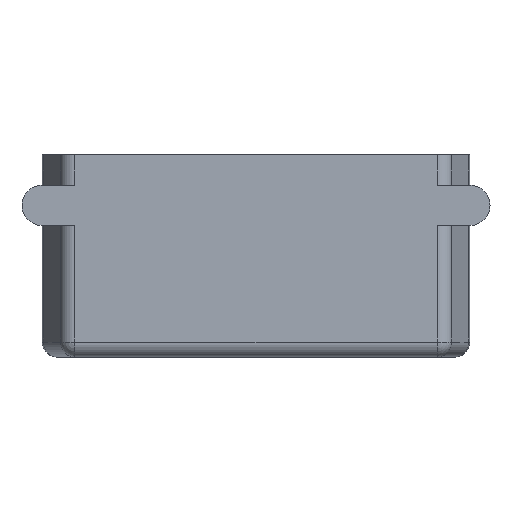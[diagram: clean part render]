
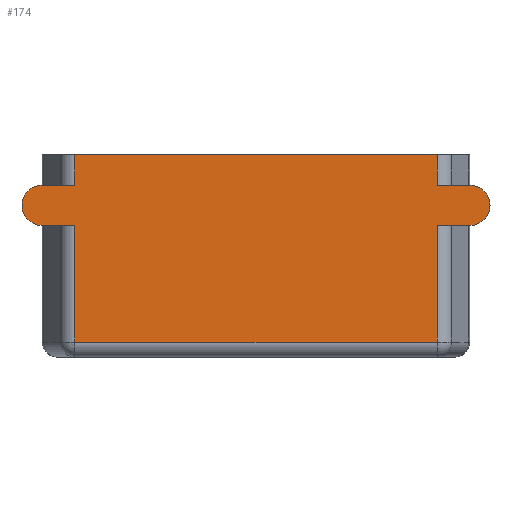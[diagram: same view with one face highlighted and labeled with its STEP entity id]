
A CAD part, front view. The second image highlights one B-rep face of the part: STEP entity #174.
In plain terms, the highlighted planar face has unit normal (0, -1, 0).
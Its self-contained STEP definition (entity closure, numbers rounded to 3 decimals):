
#2 = VECTOR ( 'NONE', #1752, 1000. ) ;
#5 = LINE ( 'NONE', #1722, #2 ) ;
#8 = LINE ( 'NONE', #1710, #518 ) ;
#22 = FACE_OUTER_BOUND ( 'NONE', #929, .T. ) ;
#117 = CARTESIAN_POINT ( 'NONE',  ( 35.782, -30.5, 40. ) ) ;
#118 = DIRECTION ( 'NONE',  ( 0., 0., -1. ) ) ;
#122 = DIRECTION ( 'NONE',  ( 0., 0., -1. ) ) ;
#127 = CARTESIAN_POINT ( 'NONE',  ( -35.782, -30.5, 40. ) ) ;
#174 = ADVANCED_FACE ( 'NONE', ( #22 ), #390, .F. ) ;
#237 = CARTESIAN_POINT ( 'NONE',  ( 42.25, -30.5, 26. ) ) ;
#243 = CARTESIAN_POINT ( 'NONE',  ( 42.25, -30.5, 34. ) ) ;
#287 = CARTESIAN_POINT ( 'NONE',  ( 35.782, -30.5, 40. ) ) ;
#387 = DIRECTION ( 'NONE',  ( -1., 0., 0. ) ) ;
#388 = DIRECTION ( 'NONE',  ( 0., 1., 0. ) ) ;
#390 = PLANE ( 'NONE',  #623 ) ;
#473 = LINE ( 'NONE', #117, #475 ) ;
#475 = VECTOR ( 'NONE', #118, 1000. ) ;
#478 = LINE ( 'NONE', #127, #480 ) ;
#480 = VECTOR ( 'NONE', #122, 1000. ) ;
#487 = VECTOR ( 'NONE', #1749, 1000. ) ;
#490 = LINE ( 'NONE', #1750, #487 ) ;
#514 = VECTOR ( 'NONE', #1736, 1000. ) ;
#515 = VECTOR ( 'NONE', #1680, 1000. ) ;
#516 = LINE ( 'NONE', #1685, #515 ) ;
#518 = VECTOR ( 'NONE', #1691, 1000. ) ;
#568 = AXIS2_PLACEMENT_3D ( 'NONE', #1744, #1743, #1741 ) ;
#570 = AXIS2_PLACEMENT_3D ( 'NONE', #1763, #1761, #1760 ) ;
#623 = AXIS2_PLACEMENT_3D ( 'NONE', #287, #388, #387 ) ;
#674 = EDGE_CURVE ( 'NONE', #1645, #1646, #5, .T. ) ;
#675 = EDGE_CURVE ( 'NONE', #1590, #1627, #8, .T. ) ;
#676 = EDGE_CURVE ( 'NONE', #1625, #1627, #516, .T. ) ;
#677 = EDGE_CURVE ( 'NONE', #1625, #1657, #1037, .T. ) ;
#678 = EDGE_CURVE ( 'NONE', #1657, #1665, #1034, .T. ) ;
#683 = EDGE_CURVE ( 'NONE', #1665, #1577, #490, .T. ) ;
#684 = EDGE_CURVE ( 'NONE', #1646, #1638, #1027, .T. ) ;
#685 = EDGE_CURVE ( 'NONE', #1638, #1626, #1449, .T. ) ;
#686 = EDGE_CURVE ( 'NONE', #1645, #1580, #1035, .T. ) ;
#688 = EDGE_CURVE ( 'NONE', #1626, #1589, #1358, .T. ) ;
#775 = EDGE_CURVE ( 'NONE', #1580, #1577, #473, .T. ) ;
#778 = EDGE_CURVE ( 'NONE', #1589, #1590, #478, .T. ) ;
#929 = EDGE_LOOP ( 'NONE', ( #1254, #1255, #1256, #1257, #1258, #1259, #1260, #1261, #1262, #1263, #1264, #1265 ) ) ;
#1027 = LINE ( 'NONE', #1748, #1048 ) ;
#1034 = CIRCLE ( 'NONE', #570, 4. ) ;
#1035 = LINE ( 'NONE', #1756, #1563 ) ;
#1036 = VECTOR ( 'NONE', #1673, 1000. ) ;
#1037 = LINE ( 'NONE', #1715, #1036 ) ;
#1048 = VECTOR ( 'NONE', #1747, 1000. ) ;
#1254 = ORIENTED_EDGE ( 'NONE', *, *, #778, .T. ) ;
#1255 = ORIENTED_EDGE ( 'NONE', *, *, #675, .T. ) ;
#1256 = ORIENTED_EDGE ( 'NONE', *, *, #676, .F. ) ;
#1257 = ORIENTED_EDGE ( 'NONE', *, *, #677, .T. ) ;
#1258 = ORIENTED_EDGE ( 'NONE', *, *, #678, .T. ) ;
#1259 = ORIENTED_EDGE ( 'NONE', *, *, #683, .T. ) ;
#1260 = ORIENTED_EDGE ( 'NONE', *, *, #775, .F. ) ;
#1261 = ORIENTED_EDGE ( 'NONE', *, *, #686, .F. ) ;
#1262 = ORIENTED_EDGE ( 'NONE', *, *, #674, .T. ) ;
#1263 = ORIENTED_EDGE ( 'NONE', *, *, #684, .T. ) ;
#1264 = ORIENTED_EDGE ( 'NONE', *, *, #685, .T. ) ;
#1265 = ORIENTED_EDGE ( 'NONE', *, *, #688, .T. ) ;
#1278 = CARTESIAN_POINT ( 'NONE',  ( 35.782, -30.5, 40. ) ) ;
#1288 = CARTESIAN_POINT ( 'NONE',  ( 35.782, -30.5, 34. ) ) ;
#1296 = CARTESIAN_POINT ( 'NONE',  ( -35.782, -30.5, 26. ) ) ;
#1297 = CARTESIAN_POINT ( 'NONE',  ( -35.782, -30.5, 3. ) ) ;
#1332 = CARTESIAN_POINT ( 'NONE',  ( 35.782, -30.5, 26. ) ) ;
#1333 = CARTESIAN_POINT ( 'NONE',  ( -42.25, -30.5, 26. ) ) ;
#1334 = CARTESIAN_POINT ( 'NONE',  ( 35.782, -30.5, 3. ) ) ;
#1345 = CARTESIAN_POINT ( 'NONE',  ( -42.25, -30.5, 34. ) ) ;
#1352 = CARTESIAN_POINT ( 'NONE',  ( -35.782, -30.5, 40. ) ) ;
#1353 = CARTESIAN_POINT ( 'NONE',  ( -35.782, -30.5, 34. ) ) ;
#1358 = LINE ( 'NONE', #1737, #514 ) ;
#1449 = CIRCLE ( 'NONE', #568, 4. ) ;
#1563 = VECTOR ( 'NONE', #1755, 1000. ) ;
#1577 = VERTEX_POINT ( 'NONE', #1288 ) ;
#1580 = VERTEX_POINT ( 'NONE', #1278 ) ;
#1589 = VERTEX_POINT ( 'NONE', #1296 ) ;
#1590 = VERTEX_POINT ( 'NONE', #1297 ) ;
#1625 = VERTEX_POINT ( 'NONE', #1332 ) ;
#1626 = VERTEX_POINT ( 'NONE', #1333 ) ;
#1627 = VERTEX_POINT ( 'NONE', #1334 ) ;
#1638 = VERTEX_POINT ( 'NONE', #1345 ) ;
#1645 = VERTEX_POINT ( 'NONE', #1352 ) ;
#1646 = VERTEX_POINT ( 'NONE', #1353 ) ;
#1657 = VERTEX_POINT ( 'NONE', #237 ) ;
#1665 = VERTEX_POINT ( 'NONE', #243 ) ;
#1673 = DIRECTION ( 'NONE',  ( 1., 0., 0. ) ) ;
#1680 = DIRECTION ( 'NONE',  ( 0., 0., -1. ) ) ;
#1685 = CARTESIAN_POINT ( 'NONE',  ( 35.782, -30.5, 40. ) ) ;
#1691 = DIRECTION ( 'NONE',  ( 1., 0., 0. ) ) ;
#1710 = CARTESIAN_POINT ( 'NONE',  ( 35.782, -30.5, 3. ) ) ;
#1715 = CARTESIAN_POINT ( 'NONE',  ( 42.25, -30.5, 26. ) ) ;
#1722 = CARTESIAN_POINT ( 'NONE',  ( -35.782, -30.5, 40. ) ) ;
#1736 = DIRECTION ( 'NONE',  ( 1., 0., 0. ) ) ;
#1737 = CARTESIAN_POINT ( 'NONE',  ( -42.25, -30.5, 26. ) ) ;
#1741 = DIRECTION ( 'NONE',  ( -1., 0., 0. ) ) ;
#1743 = DIRECTION ( 'NONE',  ( 0., -1., 0. ) ) ;
#1744 = CARTESIAN_POINT ( 'NONE',  ( -42.25, -30.5, 30. ) ) ;
#1747 = DIRECTION ( 'NONE',  ( -1., 0., 0. ) ) ;
#1748 = CARTESIAN_POINT ( 'NONE',  ( -42.25, -30.5, 34. ) ) ;
#1749 = DIRECTION ( 'NONE',  ( -1., 0., 0. ) ) ;
#1750 = CARTESIAN_POINT ( 'NONE',  ( 42.25, -30.5, 34. ) ) ;
#1752 = DIRECTION ( 'NONE',  ( 0., 0., -1. ) ) ;
#1755 = DIRECTION ( 'NONE',  ( 1., 0., 0. ) ) ;
#1756 = CARTESIAN_POINT ( 'NONE',  ( 35.782, -30.5, 40. ) ) ;
#1760 = DIRECTION ( 'NONE',  ( -1., 0., 0. ) ) ;
#1761 = DIRECTION ( 'NONE',  ( 0., -1., 0. ) ) ;
#1763 = CARTESIAN_POINT ( 'NONE',  ( 42.25, -30.5, 30. ) ) ;
